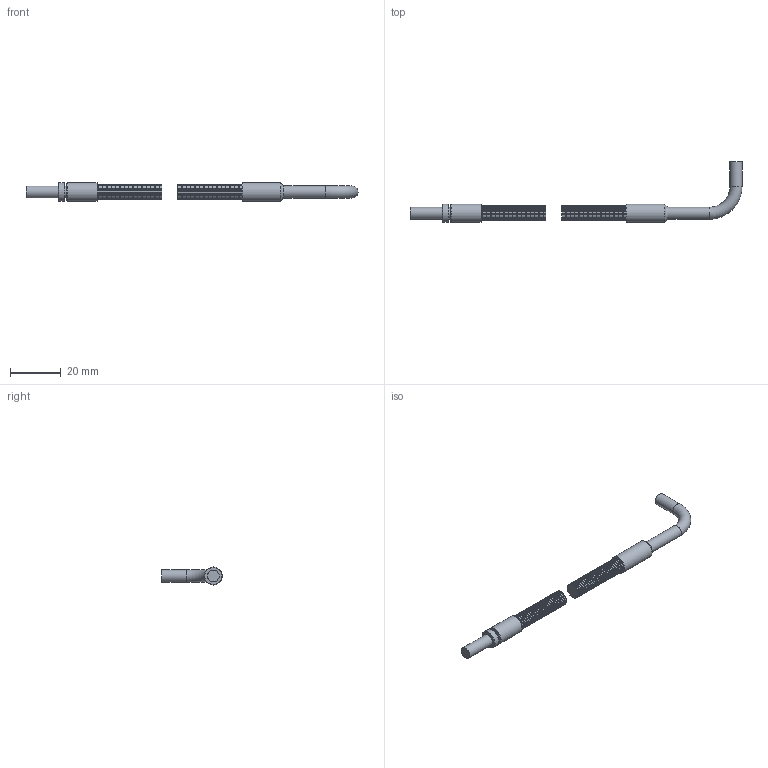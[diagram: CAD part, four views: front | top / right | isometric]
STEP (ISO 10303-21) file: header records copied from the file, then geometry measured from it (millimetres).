
FILE_DESCRIPTION(/* description */ ('STEP AP203'),/* implementation_level */ '2;1');
FILE_NAME(/* name */ 'P_MZ_FO_0147',/* time_stamp */ '2023-03-02T11:34:52+01:00',/* author */ ('License CC BY-ND 4.0'),/* organization */ ('CADENAS'),/* preprocessor_version */ 'ST-DEVELOPER v18.102',/* originating_system */ 'PARTsolutions',/* authorisation */ ' ');
FILE_SCHEMA (('CONFIG_CONTROL_DESIGN'));
Length unit declared in the file: millimetre
Products named in the file (3): P_MZ_FO_0147; P_MZ_FO_0147_P2; P_MZ_FO_0147_P1
Assembly tree (2 placements, depth 2):
  P_MZ_FO_0147
    P_MZ_FO_0147_P2
    P_MZ_FO_0147_P1
Bounding box: 130.64 x 23.89 x 7.14 mm (x, y, z)
Volume: 3510.7 mm3; surface area: 3956.2 mm2
Topology: 2 solids, 2 shells, 421 faces, 632 edges, 420 vertices
Faces by surface type: plane 209, cylinder 207, torus 5
Full cylindrical faces by diameter (mm): 4.674 x2, 4.75 x2, 5.207 x100, 5.969 x100, 7.137 x3
Entity records: 8479 total; most frequent: DIRECTION 1686, CARTESIAN_POINT 1262, AXIS2_PLACEMENT_3D 843, ORIENTED_EDGE 838, EDGE_LOOP 838, FACE_BOUND 838, ADVANCED_FACE 421, EDGE_CURVE 419
